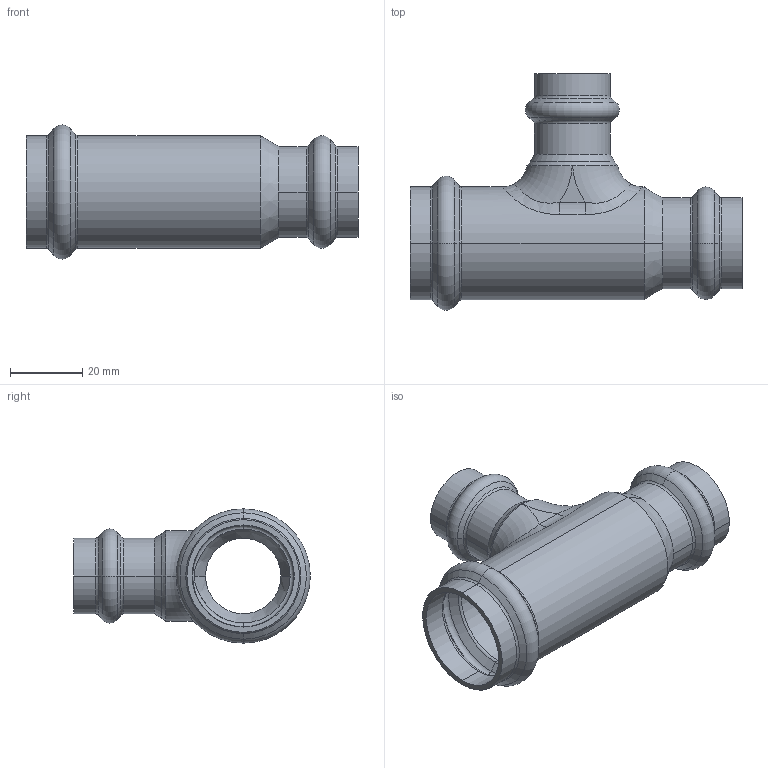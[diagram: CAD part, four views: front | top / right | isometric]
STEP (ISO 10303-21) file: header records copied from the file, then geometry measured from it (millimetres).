
FILE_DESCRIPTION (( 'STEP AP203' ), '1' );
FILE_NAME ('SP5130 Ø28-18-22.STEP', '2017-04-24T13:17:47', ( '' ), ( '' ), 'SwSTEP 2.0', 'SolidWorks 2016', '' );
FILE_SCHEMA (( 'CONFIG_CONTROL_DESIGN' ));
Length unit declared in the file: millimetre
Products named in the file (1): SP5130 Ø28-18-22
Bounding box: 92 x 65.6 x 37.2 mm (x, y, z)
Volume: 20160.3 mm3; surface area: 21806.4 mm2
Topology: 1 solids, 1 shells, 129 faces, 286 edges, 156 vertices
Faces by surface type: torus 46, cone 36, cylinder 35, bspline 6, plane 6
Entity records: 5043 total; most frequent: CARTESIAN_POINT 2094, DIRECTION 686, ORIENTED_EDGE 564, AXIS2_PLACEMENT_3D 308, EDGE_CURVE 282, CIRCLE 184, VERTEX_POINT 156, EDGE_LOOP 134
